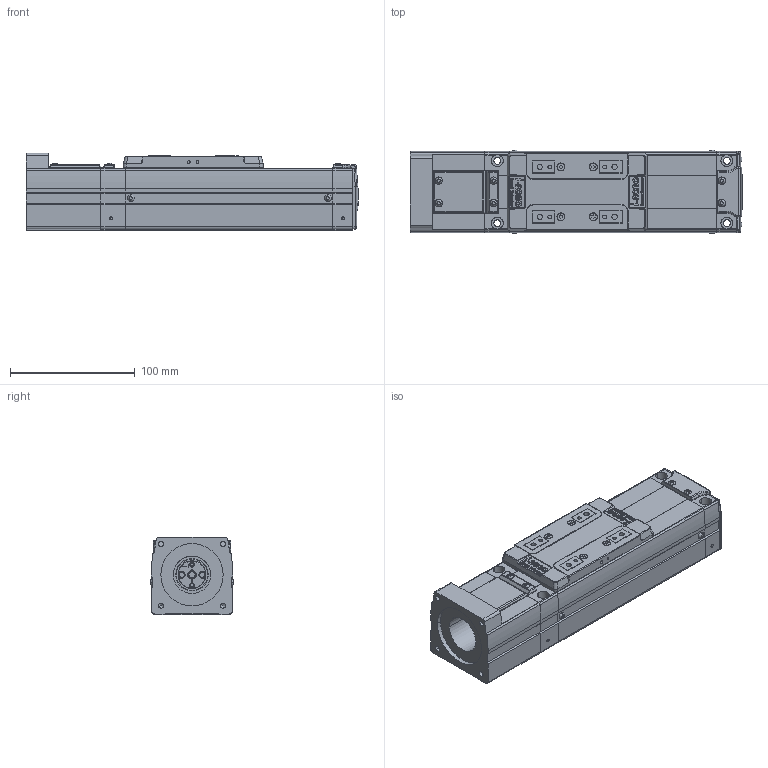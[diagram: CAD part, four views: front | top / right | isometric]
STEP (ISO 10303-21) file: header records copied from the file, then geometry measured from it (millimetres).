
FILE_DESCRIPTION(('STEP AP203'),'1');
FILE_NAME('Z:/Web/3D/SAN65/2012.ver/STP/50/SAN65ㅁㅁ-050S.stp','2014-06-13T05:25:01',(' '),(' '),'Spatial InterOp 3D',' ',' ');
FILE_SCHEMA(('CONFIG_CONTROL_DESIGN'));
Length unit declared in the file: millimetre
Products named in the file (56): 1; 2; 3; 4; 5; 6; 7; 8; 9; 10; 11; 12; 13; 14; 15; 16; 17; 18; 19; 20; 21; 22; 23; 24; 25; 26; 27; 28; 29; 30; 31; 32; 33; 34; 35; 36; 37; 38; 39; 40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
Bounding box: 266.15 x 67.13 x 62 mm (x, y, z)
Volume: 846878.6 mm3; surface area: 157730.2 mm2
Topology: 56 solids, 56 shells, 2216 faces, 5835 edges, 3790 vertices
Faces by surface type: plane 1036, cylinder 820, cone 270, sphere 36, bspline 28, torus 20, extrusion 6
Full cylindrical faces by diameter (mm): 2.132 x1, 3.5 x2, 6 x2
Entity records: 74767 total; most frequent: CARTESIAN_POINT 15789, DIRECTION 12288, ORIENTED_EDGE 11570, EDGE_CURVE 5785, AXIS2_PLACEMENT_3D 4489, VERTEX_POINT 3789, VECTOR 3310, LINE 3304
